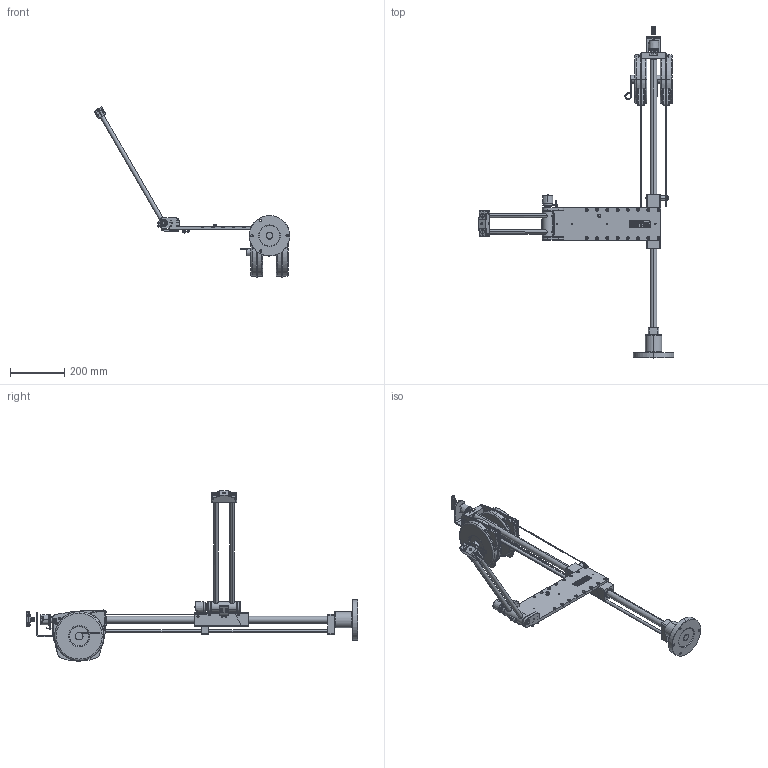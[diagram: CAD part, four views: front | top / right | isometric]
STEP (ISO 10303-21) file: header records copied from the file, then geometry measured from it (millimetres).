
FILE_DESCRIPTION((''),'2;1');
FILE_NAME('6158122750','2017-08-28T',('greextsd'),(''),'CREO PARAMETRIC BY PTC INC, 2017020','CREO PARAMETRIC BY PTC INC, 2017020','');
FILE_SCHEMA(('AUTOMOTIVE_DESIGN { 1 0 10303 214 1 1 1 1 }'));
Products named in the file (1): 6158122750
Bounding box: 722.96 x 1226.4 x 629.19 mm (x, y, z)
Volume: 2878770.9 mm3; surface area: 964917.3 mm2
Topology: 241 solids, 296 shells, 2995 faces, 9588 edges, 6616 vertices
Faces by surface type: plane 1170, cylinder 931, sphere 404, cone 270, torus 176, bspline 34, extrusion 10
Full cylindrical faces by diameter (mm): 1 x1
Entity records: 129860 total; most frequent: CARTESIAN_POINT 36871, ORIENTED_EDGE 17210, DIRECTION 15860, EDGE_CURVE 8755, VERTEX_POINT 6614, AXIS2_PLACEMENT_3D 6053, VECTOR 3754, LINE 3744
